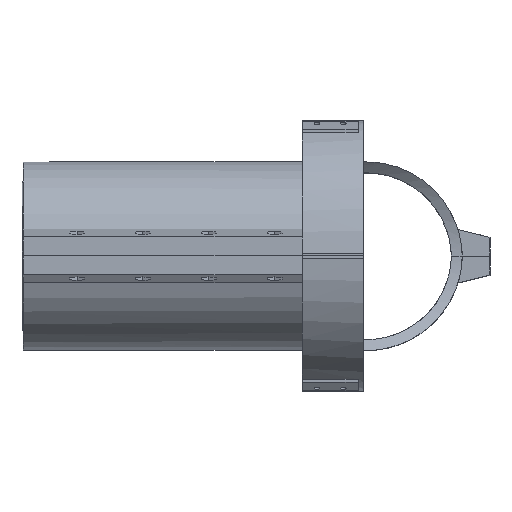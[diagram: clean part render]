
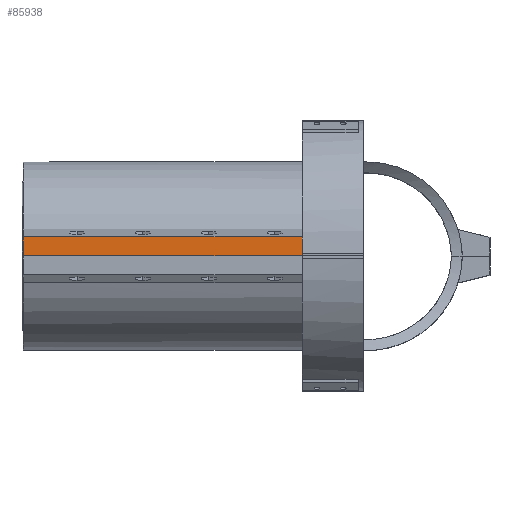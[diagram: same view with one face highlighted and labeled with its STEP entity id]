
A CAD part, top view. The second image highlights one B-rep face of the part: STEP entity #85938.
In plain terms, the highlighted planar face has unit normal (0, 0, 1).
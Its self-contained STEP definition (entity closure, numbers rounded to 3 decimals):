
#73738 = PLANE('',#73739);
#73739 = AXIS2_PLACEMENT_3D('',#73740,#73741,#73742);
#73740 = CARTESIAN_POINT('',(90.165,4818.86,
    69.271));
#73741 = DIRECTION('',(0.,-1.,0.));
#73742 = DIRECTION('',(-1.,0.,-0.));
#74405 = VERTEX_POINT('',#74406);
#74406 = CARTESIAN_POINT('',(0.5,4825.728,133.665
    ));
#74413 = PLANE('',#74414);
#74414 = AXIS2_PLACEMENT_3D('',#74415,#74416,#74417);
#74415 = CARTESIAN_POINT('',(0.5,4835.232,88.548)
  );
#74416 = DIRECTION('',(1.,0.,-0.));
#74417 = DIRECTION('',(0.,0.,-1.));
#74425 = PLANE('',#74426);
#74426 = AXIS2_PLACEMENT_3D('',#74427,#74428,#74429);
#74427 = CARTESIAN_POINT('',(9.928,4825.728,
    133.665));
#74428 = DIRECTION('',(0.,-0.971,
    -0.237));
#74429 = DIRECTION('',(0.,-0.237,
    0.971));
#74579 = VERTEX_POINT('',#74580);
#74580 = CARTESIAN_POINT('',(0.5,4818.86,133.665
    ));
#74601 = EDGE_CURVE('',#74405,#74579,#74602,.T.);
#74602 = SURFACE_CURVE('',#74603,(#74607,#74614),.PCURVE_S1.);
#74603 = LINE('',#74604,#74605);
#74604 = CARTESIAN_POINT('',(0.5,4825.728,133.665
    ));
#74605 = VECTOR('',#74606,1.);
#74606 = DIRECTION('',(0.,-1.,0.));
#74607 = PCURVE('',#74413,#74608);
#74608 = DEFINITIONAL_REPRESENTATION('',(#74609),#74613);
#74609 = LINE('',#74610,#74611);
#74610 = CARTESIAN_POINT('',(-45.118,-9.505));
#74611 = VECTOR('',#74612,1.);
#74612 = DIRECTION('',(0.,-1.));
#74613 = ( GEOMETRIC_REPRESENTATION_CONTEXT(2) 
PARAMETRIC_REPRESENTATION_CONTEXT() REPRESENTATION_CONTEXT('2D SPACE',''
  ) );
#74614 = PCURVE('',#74615,#74620);
#74615 = PLANE('',#74616);
#74616 = AXIS2_PLACEMENT_3D('',#74617,#74618,#74619);
#74617 = CARTESIAN_POINT('',(66.229,4818.153,
    133.665));
#74618 = DIRECTION('',(0.,0.,-1.));
#74619 = DIRECTION('',(0.,-1.,0.));
#74620 = DEFINITIONAL_REPRESENTATION('',(#74621),#74625);
#74621 = LINE('',#74622,#74623);
#74622 = CARTESIAN_POINT('',(-7.575,65.729));
#74623 = VECTOR('',#74624,1.);
#74624 = DIRECTION('',(1.,-0.));
#74625 = ( GEOMETRIC_REPRESENTATION_CONTEXT(2) 
PARAMETRIC_REPRESENTATION_CONTEXT() REPRESENTATION_CONTEXT('2D SPACE',''
  ) );
#75382 = VERTEX_POINT('',#75383);
#75383 = CARTESIAN_POINT('',(102.054,4818.86,
    133.665));
#75397 = PLANE('',#75398);
#75398 = AXIS2_PLACEMENT_3D('',#75399,#75400,#75401);
#75399 = CARTESIAN_POINT('',(102.054,4818.153,
    88.548));
#75400 = DIRECTION('',(1.,0.,0.));
#75401 = DIRECTION('',(0.,0.,-1.));
#75409 = EDGE_CURVE('',#74579,#75382,#75410,.T.);
#75410 = SURFACE_CURVE('',#75411,(#75415,#75422),.PCURVE_S1.);
#75411 = LINE('',#75412,#75413);
#75412 = CARTESIAN_POINT('',(78.197,4818.86,
    133.665));
#75413 = VECTOR('',#75414,1.);
#75414 = DIRECTION('',(1.,0.,0.));
#75415 = PCURVE('',#73738,#75416);
#75416 = DEFINITIONAL_REPRESENTATION('',(#75417),#75421);
#75417 = LINE('',#75418,#75419);
#75418 = CARTESIAN_POINT('',(11.968,-64.394));
#75419 = VECTOR('',#75420,1.);
#75420 = DIRECTION('',(-1.,0.));
#75421 = ( GEOMETRIC_REPRESENTATION_CONTEXT(2) 
PARAMETRIC_REPRESENTATION_CONTEXT() REPRESENTATION_CONTEXT('2D SPACE',''
  ) );
#75422 = PCURVE('',#74615,#75423);
#75423 = DEFINITIONAL_REPRESENTATION('',(#75424),#75428);
#75424 = LINE('',#75425,#75426);
#75425 = CARTESIAN_POINT('',(-0.707,-11.968));
#75426 = VECTOR('',#75427,1.);
#75427 = DIRECTION('',(-0.,-1.));
#75428 = ( GEOMETRIC_REPRESENTATION_CONTEXT(2) 
PARAMETRIC_REPRESENTATION_CONTEXT() REPRESENTATION_CONTEXT('2D SPACE',''
  ) );
#79390 = EDGE_CURVE('',#79391,#74405,#79393,.T.);
#79391 = VERTEX_POINT('',#79392);
#79392 = CARTESIAN_POINT('',(102.054,4825.728,
    133.665));
#79393 = SURFACE_CURVE('',#79394,(#79398,#79405),.PCURVE_S1.);
#79394 = LINE('',#79395,#79396);
#79395 = CARTESIAN_POINT('',(9.928,4825.728,133.665
    ));
#79396 = VECTOR('',#79397,1.);
#79397 = DIRECTION('',(-1.,0.,0.));
#79398 = PCURVE('',#74425,#79399);
#79399 = DEFINITIONAL_REPRESENTATION('',(#79400),#79404);
#79400 = LINE('',#79401,#79402);
#79401 = CARTESIAN_POINT('',(0.,0.));
#79402 = VECTOR('',#79403,1.);
#79403 = DIRECTION('',(0.,1.));
#79404 = ( GEOMETRIC_REPRESENTATION_CONTEXT(2) 
PARAMETRIC_REPRESENTATION_CONTEXT() REPRESENTATION_CONTEXT('2D SPACE',''
  ) );
#79405 = PCURVE('',#74615,#79406);
#79406 = DEFINITIONAL_REPRESENTATION('',(#79407),#79411);
#79407 = LINE('',#79408,#79409);
#79408 = CARTESIAN_POINT('',(-7.575,56.3));
#79409 = VECTOR('',#79410,1.);
#79410 = DIRECTION('',(-0.,1.));
#79411 = ( GEOMETRIC_REPRESENTATION_CONTEXT(2) 
PARAMETRIC_REPRESENTATION_CONTEXT() REPRESENTATION_CONTEXT('2D SPACE',''
  ) );
#85938 = ADVANCED_FACE('',(#85939),#74615,.F.);
#85939 = FACE_BOUND('',#85940,.T.);
#85940 = EDGE_LOOP('',(#85941,#85942,#85963,#85964));
#85941 = ORIENTED_EDGE('',*,*,#75409,.T.);
#85942 = ORIENTED_EDGE('',*,*,#85943,.T.);
#85943 = EDGE_CURVE('',#75382,#79391,#85944,.T.);
#85944 = SURFACE_CURVE('',#85945,(#85949,#85956),.PCURVE_S1.);
#85945 = LINE('',#85946,#85947);
#85946 = CARTESIAN_POINT('',(102.054,4814.365,
    133.665));
#85947 = VECTOR('',#85948,1.);
#85948 = DIRECTION('',(0.,1.,0.));
#85949 = PCURVE('',#74615,#85950);
#85950 = DEFINITIONAL_REPRESENTATION('',(#85951),#85955);
#85951 = LINE('',#85952,#85953);
#85952 = CARTESIAN_POINT('',(3.788,-35.825));
#85953 = VECTOR('',#85954,1.);
#85954 = DIRECTION('',(-1.,0.));
#85955 = ( GEOMETRIC_REPRESENTATION_CONTEXT(2) 
PARAMETRIC_REPRESENTATION_CONTEXT() REPRESENTATION_CONTEXT('2D SPACE',''
  ) );
#85956 = PCURVE('',#75397,#85957);
#85957 = DEFINITIONAL_REPRESENTATION('',(#85958),#85962);
#85958 = LINE('',#85959,#85960);
#85959 = CARTESIAN_POINT('',(-45.118,-3.788));
#85960 = VECTOR('',#85961,1.);
#85961 = DIRECTION('',(-0.,1.));
#85962 = ( GEOMETRIC_REPRESENTATION_CONTEXT(2) 
PARAMETRIC_REPRESENTATION_CONTEXT() REPRESENTATION_CONTEXT('2D SPACE',''
  ) );
#85963 = ORIENTED_EDGE('',*,*,#79390,.T.);
#85964 = ORIENTED_EDGE('',*,*,#74601,.T.);
